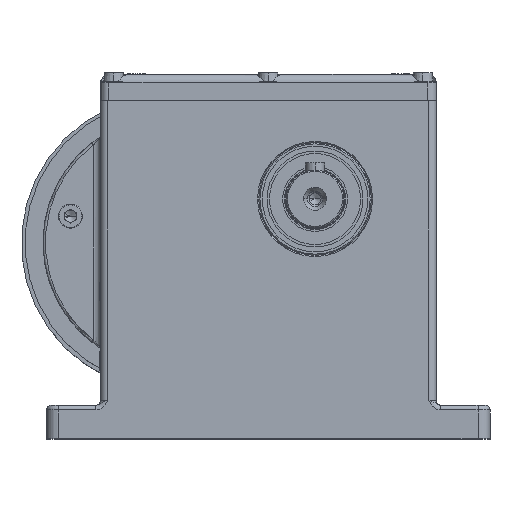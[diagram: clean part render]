
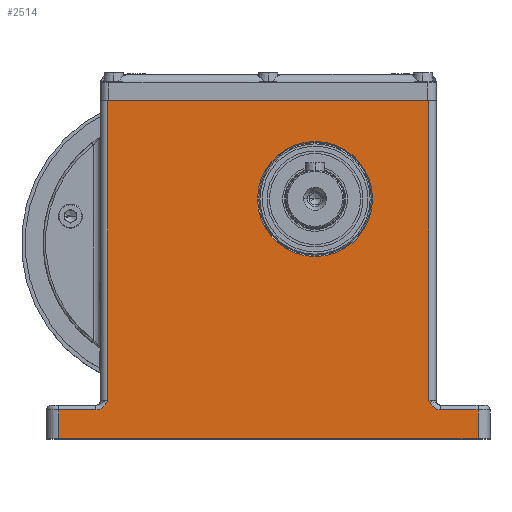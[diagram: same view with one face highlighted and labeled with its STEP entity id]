
A CAD part, top view. The second image highlights one B-rep face of the part: STEP entity #2514.
In plain terms, the highlighted planar face has unit normal (0, 0, 1).
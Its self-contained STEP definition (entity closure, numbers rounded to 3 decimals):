
#215 = CARTESIAN_POINT ( 'NONE',  ( 113.399, -70., 39.5 ) ) ;
#525 = CARTESIAN_POINT ( 'NONE',  ( 61., 18., 39.5 ) ) ;
#660 = DIRECTION ( 'NONE',  ( -1., 0., 0. ) ) ;
#1381 = VECTOR ( 'NONE', #19619, 1000. ) ;
#1612 = B_SPLINE_CURVE_WITH_KNOTS ( 'NONE', 3,
 ( #215, #14667, #10853, #6351, #24656, #20791, #18513, #4334, #8358, #2464, #6735, #18897, #2589, #18757, #12421, #18634 ),
 .UNSPECIFIED., .F., .F.,
 ( 4, 2, 2, 2, 2, 2, 2, 4 ),
 ( 0., 0.001, 0.002, 0.003, 0.003, 0.005, 0.006, 0.007 ),
 .UNSPECIFIED. ) ;
#1704 = DIRECTION ( 'NONE',  ( 0., 0., -1. ) ) ;
#2050 = LINE ( 'NONE', #24099, #24020 ) ;
#2464 = CARTESIAN_POINT ( 'NONE',  ( 109.953, -68.394, 39.5 ) ) ;
#2508 = ORIENTED_EDGE ( 'NONE', *, *, #11907, .F. ) ;
#2514 = ADVANCED_FACE ( 'NONE', ( #23930, #21941 ), #11850, .F. ) ;
#2589 = CARTESIAN_POINT ( 'NONE',  ( 109.015, -66.996, 39.5 ) ) ;
#2778 = CARTESIAN_POINT ( 'NONE',  ( -28.507, -69.566, 39.5 ) ) ;
#2998 = DIRECTION ( 'NONE',  ( 1., 0., 0. ) ) ;
#3039 = CARTESIAN_POINT ( 'NONE',  ( -25.751, -66.502, 39.5 ) ) ;
#3431 = DIRECTION ( 'NONE',  ( -1., 0., 0. ) ) ;
#3820 = VERTEX_POINT ( 'NONE', #12139 ) ;
#3845 = EDGE_CURVE ( 'NONE', #3820, #16898, #2050, .T. ) ;
#3945 = ORIENTED_EDGE ( 'NONE', *, *, #7943, .T. ) ;
#3987 = CARTESIAN_POINT ( 'NONE',  ( 108.5, 59., 39.5 ) ) ;
#4334 = CARTESIAN_POINT ( 'NONE',  ( 110.791, -69.132, 39.5 ) ) ;
#4399 = CARTESIAN_POINT ( 'NONE',  ( -30.399, -70., 39.5 ) ) ;
#4462 = VERTEX_POINT ( 'NONE', #4399 ) ;
#4474 = EDGE_CURVE ( 'NONE', #19410, #12068, #12360, .T. ) ;
#5053 = CARTESIAN_POINT ( 'NONE',  ( -26.603, -67.95, 39.5 ) ) ;
#5893 = CARTESIAN_POINT ( 'NONE',  ( 129., 61., 39.5 ) ) ;
#6077 = VECTOR ( 'NONE', #22614, 1000. ) ;
#6109 = DIRECTION ( 'NONE',  ( -1., 0., 0. ) ) ;
#6266 = CARTESIAN_POINT ( 'NONE',  ( -46., -82., 39.5 ) ) ;
#6286 = CARTESIAN_POINT ( 'NONE',  ( -46., 61., 39.5 ) ) ;
#6351 = CARTESIAN_POINT ( 'NONE',  ( 112.293, -69.862, 39.5 ) ) ;
#6381 = LINE ( 'NONE', #8388, #23235 ) ;
#6567 = CARTESIAN_POINT ( 'NONE',  ( 108.5, -70., 39.5 ) ) ;
#6735 = CARTESIAN_POINT ( 'NONE',  ( 109.603, -67.95, 39.5 ) ) ;
#7058 = CARTESIAN_POINT ( 'NONE',  ( -29.84, -69.972, 39.5 ) ) ;
#7465 = CARTESIAN_POINT ( 'NONE',  ( -52.5, 59., 39.5 ) ) ;
#7926 = CARTESIAN_POINT ( 'NONE',  ( 129., -70., 39.5 ) ) ;
#7943 = EDGE_CURVE ( 'NONE', #25785, #11465, #16833, .T. ) ;
#8358 = CARTESIAN_POINT ( 'NONE',  ( 110.569, -68.959, 39.5 ) ) ;
#8388 = CARTESIAN_POINT ( 'NONE',  ( -25.5, 61., 39.5 ) ) ;
#8829 = ORIENTED_EDGE ( 'NONE', *, *, #9415, .T. ) ;
#8927 = CARTESIAN_POINT ( 'NONE',  ( -26.953, -68.394, 39.5 ) ) ;
#9317 = CARTESIAN_POINT ( 'NONE',  ( -29.022, -69.779, 39.5 ) ) ;
#9415 = EDGE_CURVE ( 'NONE', #18932, #3820, #1612, .T. ) ;
#9436 = CARTESIAN_POINT ( 'NONE',  ( -25.5, -66., 39.5 ) ) ;
#9869 = DIRECTION ( 'NONE',  ( 0., 0., -1. ) ) ;
#9918 = ORIENTED_EDGE ( 'NONE', *, *, #13988, .T. ) ;
#10029 = CARTESIAN_POINT ( 'NONE',  ( -25.5, 59., 39.5 ) ) ;
#10092 = LINE ( 'NONE', #15894, #23959 ) ;
#10211 = CARTESIAN_POINT ( 'NONE',  ( 37., 18., 39.5 ) ) ;
#10383 = EDGE_LOOP ( 'NONE', ( #2508, #17670, #18270, #12979, #15038, #10680, #19797, #9918, #8829, #19635 ) ) ;
#10625 = CARTESIAN_POINT ( 'NONE',  ( 85., 18., 39.5 ) ) ;
#10680 = ORIENTED_EDGE ( 'NONE', *, *, #14591, .T. ) ;
#10853 = CARTESIAN_POINT ( 'NONE',  ( 112.84, -69.972, 39.5 ) ) ;
#11289 = CARTESIAN_POINT ( 'NONE',  ( -28.261, -69.436, 39.5 ) ) ;
#11465 = VERTEX_POINT ( 'NONE', #10211 ) ;
#11505 = VECTOR ( 'NONE', #13967, 1000. ) ;
#11850 = PLANE ( 'NONE',  #19617 ) ;
#11907 = EDGE_CURVE ( 'NONE', #24954, #16898, #21652, .T. ) ;
#12068 = VERTEX_POINT ( 'NONE', #6266 ) ;
#12139 = CARTESIAN_POINT ( 'NONE',  ( 108.5, -66., 39.5 ) ) ;
#12360 = LINE ( 'NONE', #6286, #12603 ) ;
#12421 = CARTESIAN_POINT ( 'NONE',  ( 108.625, -66.249, 39.5 ) ) ;
#12603 = VECTOR ( 'NONE', #22720, 1000. ) ;
#12742 = DIRECTION ( 'NONE',  ( 0., 0., -1. ) ) ;
#12966 = LINE ( 'NONE', #15327, #21137 ) ;
#12979 = ORIENTED_EDGE ( 'NONE', *, *, #13606, .T. ) ;
#13606 = EDGE_CURVE ( 'NONE', #4462, #19410, #10092, .T. ) ;
#13968 = DIRECTION ( 'NONE',  ( -1., 0., 0. ) ) ;
#13967 = DIRECTION ( 'NONE',  ( 0., 1., 0. ) ) ;
#13988 = EDGE_CURVE ( 'NONE', #16035, #18932, #20761, .T. ) ;
#14591 = EDGE_CURVE ( 'NONE', #12068, #17680, #12966, .T. ) ;
#14667 = CARTESIAN_POINT ( 'NONE',  ( 113.117, -70., 39.5 ) ) ;
#15038 = ORIENTED_EDGE ( 'NONE', *, *, #4474, .T. ) ;
#15327 = CARTESIAN_POINT ( 'NONE',  ( -52.5, -82., 39.5 ) ) ;
#15894 = CARTESIAN_POINT ( 'NONE',  ( -46., -70., 39.5 ) ) ;
#15943 = LINE ( 'NONE', #5893, #11505 ) ;
#16035 = VERTEX_POINT ( 'NONE', #7926 ) ;
#16740 = B_SPLINE_CURVE_WITH_KNOTS ( 'NONE', 3,
 ( #9436, #3039, #21500, #5053, #8927, #20977, #24973, #11289, #2778, #9317, #25229, #7058, #18956, #23360 ),
 .UNSPECIFIED., .F., .F.,
 ( 4, 2, 2, 2, 2, 2, 4 ),
 ( 0., 0.002, 0.003, 0.004, 0.005, 0.006, 0.007 ),
 .UNSPECIFIED. ) ;
#16833 = CIRCLE ( 'NONE', #25780, 24. ) ;
#16898 = VERTEX_POINT ( 'NONE', #3987 ) ;
#17194 = CIRCLE ( 'NONE', #18062, 24. ) ;
#17670 = ORIENTED_EDGE ( 'NONE', *, *, #25822, .T. ) ;
#17680 = VERTEX_POINT ( 'NONE', #20345 ) ;
#17820 = CARTESIAN_POINT ( 'NONE',  ( -46., -70., 39.5 ) ) ;
#18062 = AXIS2_PLACEMENT_3D ( 'NONE', #22154, #1704, #3431 ) ;
#18171 = EDGE_CURVE ( 'NONE', #17680, #16035, #15943, .T. ) ;
#18270 = ORIENTED_EDGE ( 'NONE', *, *, #23078, .T. ) ;
#18513 = CARTESIAN_POINT ( 'NONE',  ( 111.261, -69.436, 39.5 ) ) ;
#18536 = CARTESIAN_POINT ( 'NONE',  ( -25.5, -66., 39.5 ) ) ;
#18634 = CARTESIAN_POINT ( 'NONE',  ( 108.5, -66., 39.5 ) ) ;
#18757 = CARTESIAN_POINT ( 'NONE',  ( 108.751, -66.502, 39.5 ) ) ;
#18897 = CARTESIAN_POINT ( 'NONE',  ( 109.153, -67.241, 39.5 ) ) ;
#18932 = VERTEX_POINT ( 'NONE', #20266 ) ;
#18956 = CARTESIAN_POINT ( 'NONE',  ( -30.117, -70., 39.5 ) ) ;
#19410 = VERTEX_POINT ( 'NONE', #17820 ) ;
#19617 = AXIS2_PLACEMENT_3D ( 'NONE', #19923, #9869, #13968 ) ;
#19619 = DIRECTION ( 'NONE',  ( 1., 0., 0. ) ) ;
#19635 = ORIENTED_EDGE ( 'NONE', *, *, #3845, .T. ) ;
#19797 = ORIENTED_EDGE ( 'NONE', *, *, #18171, .T. ) ;
#19923 = CARTESIAN_POINT ( 'NONE',  ( -28.5, 61., 39.5 ) ) ;
#20266 = CARTESIAN_POINT ( 'NONE',  ( 113.399, -70., 39.5 ) ) ;
#20345 = CARTESIAN_POINT ( 'NONE',  ( 129., -82., 39.5 ) ) ;
#20761 = LINE ( 'NONE', #6567, #6077 ) ;
#20791 = CARTESIAN_POINT ( 'NONE',  ( 111.507, -69.566, 39.5 ) ) ;
#20977 = CARTESIAN_POINT ( 'NONE',  ( -27.569, -68.959, 39.5 ) ) ;
#21137 = VECTOR ( 'NONE', #2998, 1000. ) ;
#21500 = CARTESIAN_POINT ( 'NONE',  ( -26.003, -67.004, 39.5 ) ) ;
#21652 = LINE ( 'NONE', #7465, #1381 ) ;
#21941 = FACE_OUTER_BOUND ( 'NONE', #10383, .T. ) ;
#22154 = CARTESIAN_POINT ( 'NONE',  ( 61., 18., 39.5 ) ) ;
#22232 = DIRECTION ( 'NONE',  ( 0., 1., 0. ) ) ;
#22614 = DIRECTION ( 'NONE',  ( -1., 0., 0. ) ) ;
#22720 = DIRECTION ( 'NONE',  ( 0., -1., 0. ) ) ;
#23078 = EDGE_CURVE ( 'NONE', #24236, #4462, #16740, .T. ) ;
#23185 = EDGE_CURVE ( 'NONE', #11465, #25785, #17194, .T. ) ;
#23235 = VECTOR ( 'NONE', #24683, 1000. ) ;
#23360 = CARTESIAN_POINT ( 'NONE',  ( -30.399, -70., 39.5 ) ) ;
#23930 = FACE_BOUND ( 'NONE', #24674, .T. ) ;
#23959 = VECTOR ( 'NONE', #6109, 1000. ) ;
#24020 = VECTOR ( 'NONE', #22232, 1000. ) ;
#24099 = CARTESIAN_POINT ( 'NONE',  ( 108.5, 61., 39.5 ) ) ;
#24236 = VERTEX_POINT ( 'NONE', #18536 ) ;
#24656 = CARTESIAN_POINT ( 'NONE',  ( 112.022, -69.779, 39.5 ) ) ;
#24674 = EDGE_LOOP ( 'NONE', ( #3945, #25018 ) ) ;
#24683 = DIRECTION ( 'NONE',  ( 0., -1., 0. ) ) ;
#24954 = VERTEX_POINT ( 'NONE', #10029 ) ;
#24973 = CARTESIAN_POINT ( 'NONE',  ( -27.791, -69.132, 39.5 ) ) ;
#25018 = ORIENTED_EDGE ( 'NONE', *, *, #23185, .T. ) ;
#25229 = CARTESIAN_POINT ( 'NONE',  ( -29.293, -69.862, 39.5 ) ) ;
#25780 = AXIS2_PLACEMENT_3D ( 'NONE', #525, #12742, #660 ) ;
#25785 = VERTEX_POINT ( 'NONE', #10625 ) ;
#25822 = EDGE_CURVE ( 'NONE', #24954, #24236, #6381, .T. ) ;
